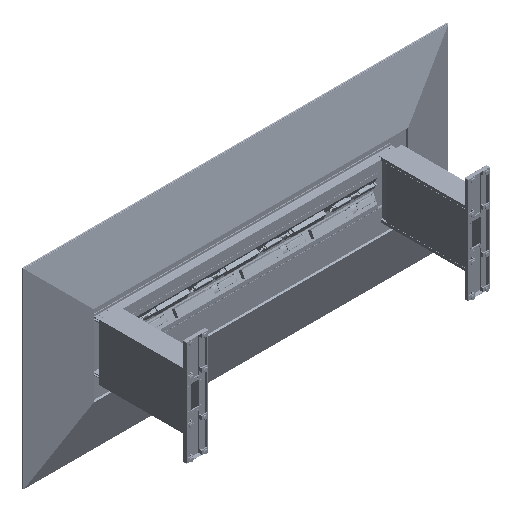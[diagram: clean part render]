
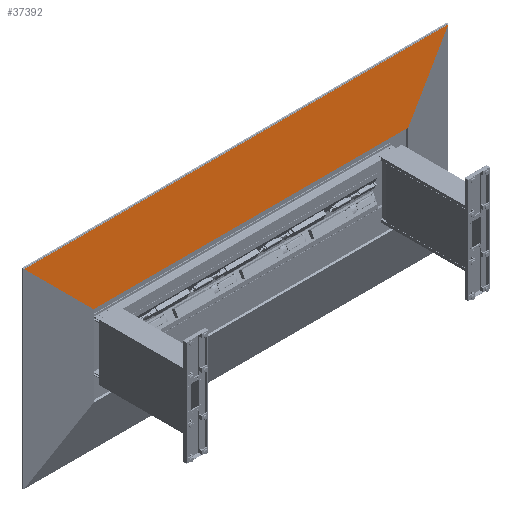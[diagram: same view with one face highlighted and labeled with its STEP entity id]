
A CAD part, isometric view. The second image highlights one B-rep face of the part: STEP entity #37392.
In plain terms, the highlighted planar face has unit normal (0, -0.966, 0.259).
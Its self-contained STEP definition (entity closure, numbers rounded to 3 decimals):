
#5800=PLANE('',#40946);
#7224=FACE_OUTER_BOUND('',#9213,.T.);
#9213=EDGE_LOOP('',(#29173,#29174,#29175,#29176));
#11603=LINE('',#57048,#15277);
#11609=LINE('',#57060,#15283);
#11611=LINE('',#57064,#15285);
#11612=LINE('',#57065,#15286);
#15277=VECTOR('',#45951,0.394);
#15283=VECTOR('',#45961,0.394);
#15285=VECTOR('',#45965,0.394);
#15286=VECTOR('',#45966,0.394);
#19899=VERTEX_POINT('',#57045);
#19900=VERTEX_POINT('',#57047);
#19904=VERTEX_POINT('',#57059);
#19905=VERTEX_POINT('',#57063);
#23372=EDGE_CURVE('',#19900,#19899,#11603,.T.);
#23378=EDGE_CURVE('',#19900,#19904,#11609,.T.);
#23380=EDGE_CURVE('',#19905,#19899,#11611,.T.);
#23381=EDGE_CURVE('',#19905,#19904,#11612,.T.);
#29173=ORIENTED_EDGE('',*,*,#23372,.T.);
#29174=ORIENTED_EDGE('',*,*,#23380,.F.);
#29175=ORIENTED_EDGE('',*,*,#23381,.T.);
#29176=ORIENTED_EDGE('',*,*,#23378,.F.);
#37392=ADVANCED_FACE('',(#7224),#5800,.F.);
#40946=AXIS2_PLACEMENT_3D('',#57062,#45963,#45964);
#45951=DIRECTION('',(0.695,-0.186,-0.695));
#45961=DIRECTION('',(1.,0.,0.));
#45963=DIRECTION('center_axis',(0.,0.966,-0.259));
#45964=DIRECTION('ref_axis',(0.,0.259,0.966));
#45965=DIRECTION('',(-1.,0.,0.));
#45966=DIRECTION('',(0.695,0.186,0.695));
#57045=CARTESIAN_POINT('',(15.58,-3.391,-15.58));
#57047=CARTESIAN_POINT('',(0.125,0.75,-0.125));
#57048=CARTESIAN_POINT('',(22.464,-5.236,-22.464));
#57059=CARTESIAN_POINT('',(119.875,0.75,-0.125));
#57060=CARTESIAN_POINT('',(60.,0.75,-0.125));
#57062=CARTESIAN_POINT('Origin',(60.,-3.391,-15.58));
#57063=CARTESIAN_POINT('',(104.42,-3.391,-15.58));
#57064=CARTESIAN_POINT('',(60.,-3.391,-15.58));
#57065=CARTESIAN_POINT('',(97.536,-5.236,-22.464));
